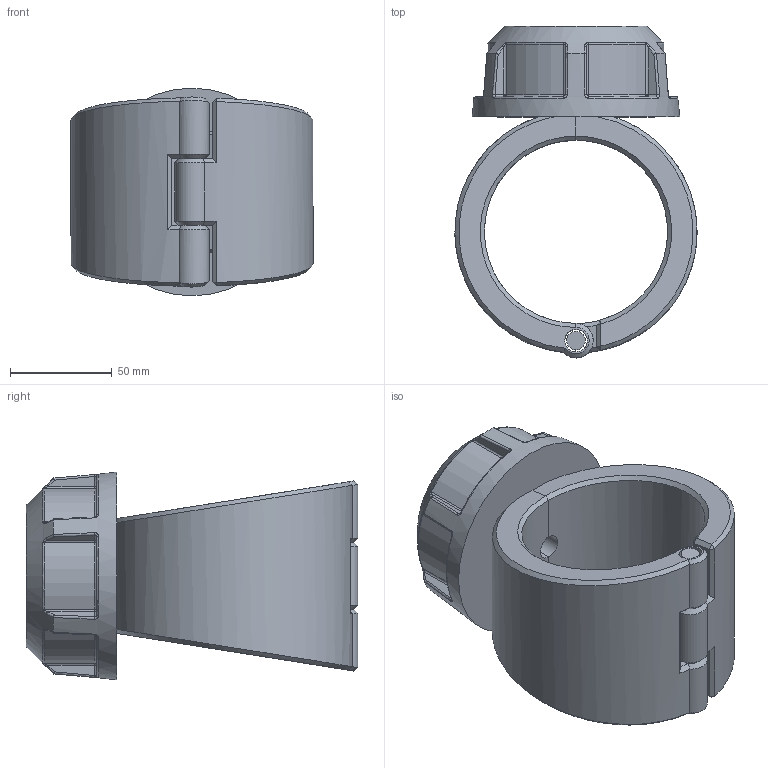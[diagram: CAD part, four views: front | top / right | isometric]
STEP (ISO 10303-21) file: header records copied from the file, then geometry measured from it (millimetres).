
FILE_DESCRIPTION(/* description */ ('Plassadle Threaded 90x3/4'''''),/* implementation_level */ '2;1');
FILE_NAME(/* name */ 'C:\Users\comp2\Dropbox\99-16-3568-Processing\Mechanical Fittings\16300\stp\163000090007.stp',/* time_stamp */ '2022-02-03T11:47:08+00:00',/* author */ ('comp2'),/* organization */ (''),/* preprocessor_version */ 'ST-DEVELOPER v17.2',/* originating_system */ 'Autodesk Inventor 2019',/* authorisation */ '');
FILE_SCHEMA (('AUTOMOTIVE_DESIGN { 1 0 10303 214 3 1 1 }'));
Length unit declared in the file: millimetre
Products named in the file (1): 163000090007
Bounding box: 118.98 x 163 x 102 mm (x, y, z)
Volume: 607255.6 mm3; surface area: 96654.3 mm2
Topology: 4 solids, 4 shells, 203 faces, 486 edges, 293 vertices
Faces by surface type: bspline 58, plane 53, cylinder 47, torus 18, cone 15, sphere 12
Full cylindrical faces by diameter (mm): 9.08 x1, 11.08 x3, 12.059 x1, 20.499 x1, 24.117 x1, 36.175 x1
Entity records: 8276 total; most frequent: CARTESIAN_POINT 3929, ORIENTED_EDGE 972, DIRECTION 781, EDGE_CURVE 486, AXIS2_PLACEMENT_3D 330, VERTEX_POINT 293, EDGE_LOOP 213, FACE_OUTER_BOUND 203
